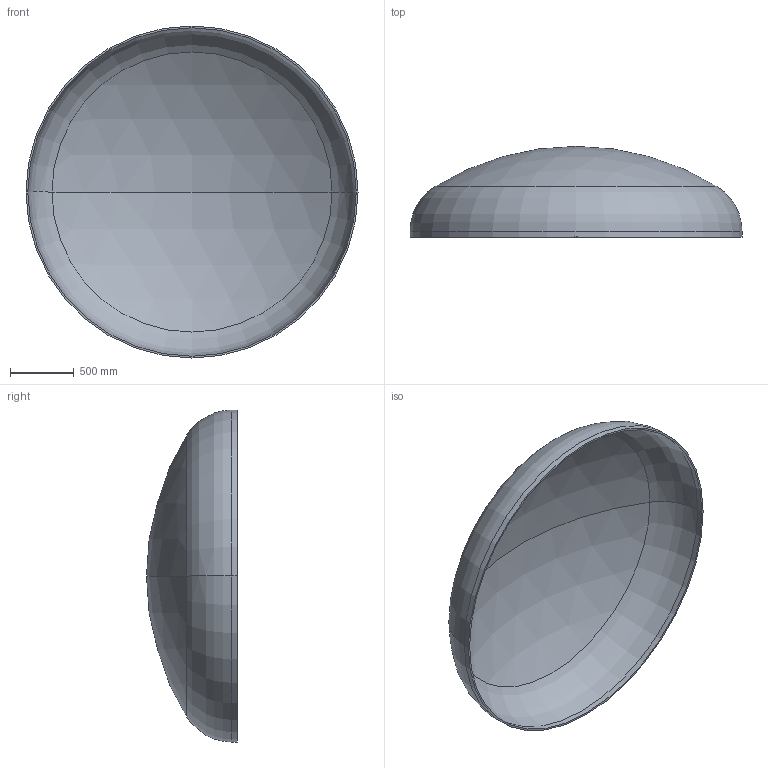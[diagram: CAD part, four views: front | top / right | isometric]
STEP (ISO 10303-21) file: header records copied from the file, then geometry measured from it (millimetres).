
FILE_DESCRIPTION (( 'STEP AP203' ), '1' );
FILE_NAME ('DIN 28013 Korbbogenform_-_Boden DIN 28013 - 2600 x 45 - I - s=14.step', '2016-07-01T15:55:07', ( '' ), ( '' ), 'SwSTEP 2.0', 'SolidWorks 2013', '' );
FILE_SCHEMA (( 'CONFIG_CONTROL_DESIGN' ));
Length unit declared in the file: millimetre
Products named in the file (1): DIN 28013 Korbbogenform_-_Boden DIN 28013 - 2600 x 45 - I - s=14
Bounding box: 2600 x 711.62 x 2600 mm (x, y, z)
Volume: 107317235.4 mm3; surface area: 15445176.3 mm2
Topology: 1 solids, 1 shells, 13 faces, 24 edges, 14 vertices
Faces by surface type: torus 4, cylinder 4, sphere 4, plane 1
Entity records: 407 total; most frequent: DIRECTION 72, CARTESIAN_POINT 52, ORIENTED_EDGE 48, AXIS2_PLACEMENT_3D 34, EDGE_CURVE 24, CIRCLE 20, VERTEX_POINT 14, EDGE_LOOP 14
